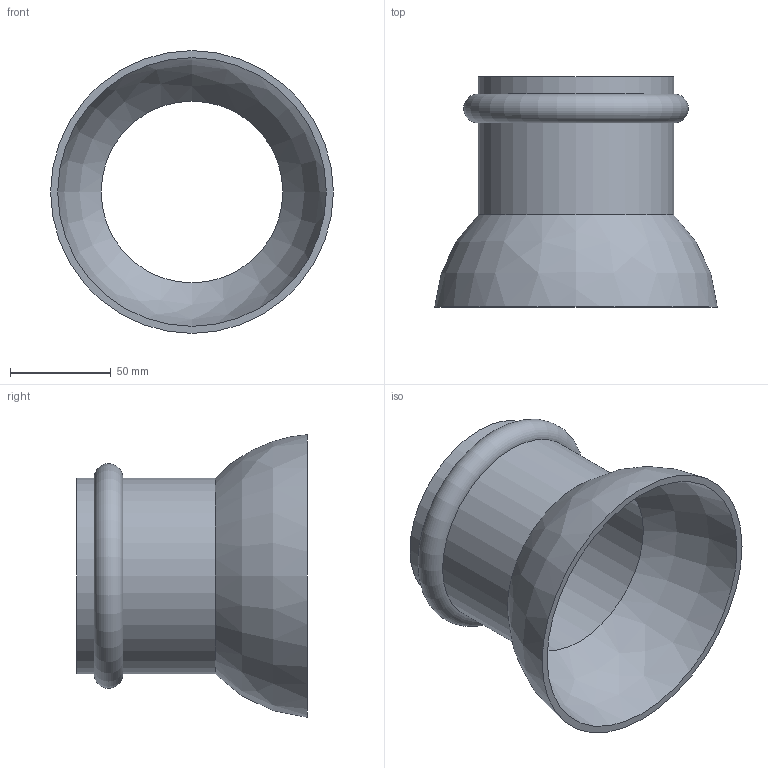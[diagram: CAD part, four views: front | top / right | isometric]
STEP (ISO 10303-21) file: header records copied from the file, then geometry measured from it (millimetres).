
FILE_DESCRIPTION( ( 'STEP AP214' ), '1' );
FILE_NAME( 'C:/Users/ilukic/Documents/ex/gebaudeentwasserung/pe/Geberit PE protecting cap/366.989.16.2.stp', '2020-03-26T18:42:19', ( '' ), ( '' ), ' ', 'PARTsolutions', ' ' );
FILE_SCHEMA( ( 'AUTOMOTIVE_DESIGN { 1 0 10303 214 1 1 1 1 }' ) );
Length unit declared in the file: millimetre
Products named in the file (1): _366.989.16.2
Bounding box: 140 x 114 x 140 mm (x, y, z)
Volume: 150154.3 mm3; surface area: 88241.3 mm2
Topology: 1 solids, 1 shells, 13 faces, 22 edges, 13 vertices
Faces by surface type: plane 4, cylinder 4, bspline 2, torus 2, cone 1
Full cylindrical faces by diameter (mm): 90 x2, 97 x2
Entity records: 442 total; most frequent: CARTESIAN_POINT 96, DIRECTION 50, EDGE_LOOP 26, ORIENTED_EDGE 26, AXIS2_PLACEMENT_3D 25, FACE_OUTER_BOUND 21, VERTEX_POINT 15, STYLED_ITEM 13
